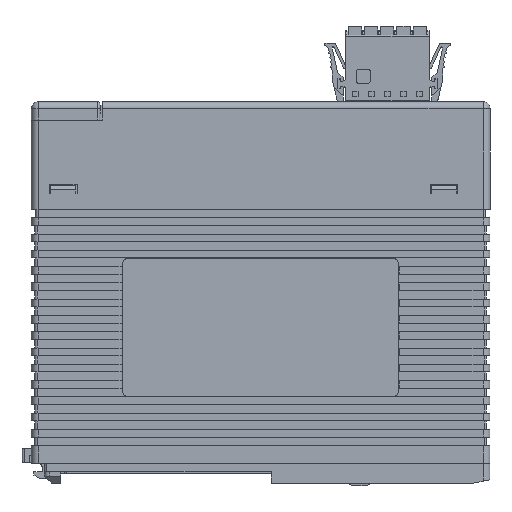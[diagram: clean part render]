
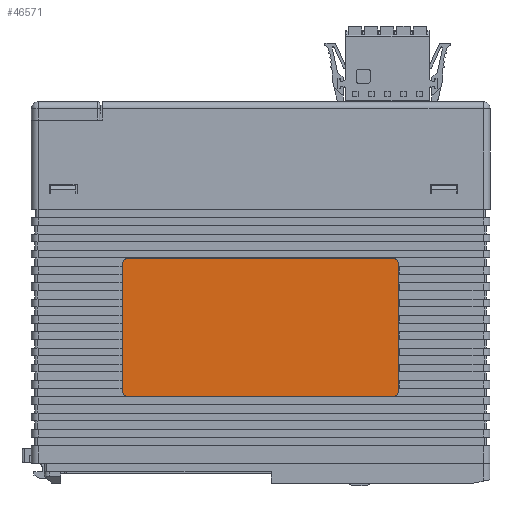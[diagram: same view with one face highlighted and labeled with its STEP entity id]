
A CAD part, left-side view. The second image highlights one B-rep face of the part: STEP entity #46571.
In plain terms, the highlighted planar face has unit normal (-1, 0, 0).
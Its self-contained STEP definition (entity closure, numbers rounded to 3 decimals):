
#1358 = CARTESIAN_POINT ( 'NONE',  ( -14.4, 30.026, -11.68 ) ) ;
#19867 = EDGE_CURVE ( 'NONE', #179852, #36203, #130676, .T. ) ;
#24434 = DIRECTION ( 'NONE',  ( 0., 0., 1. ) ) ;
#27502 = VERTEX_POINT ( 'NONE', #92604 ) ;
#28346 = CIRCLE ( 'NONE', #82457, 1. ) ;
#28403 = VECTOR ( 'NONE', #157841, 1000. ) ;
#28866 = CARTESIAN_POINT ( 'NONE',  ( -14.4, -28.974, -40.68 ) ) ;
#32384 = VECTOR ( 'NONE', #196619, 1000. ) ;
#33597 = AXIS2_PLACEMENT_3D ( 'NONE', #148142, #178882, #117483 ) ;
#36203 = VERTEX_POINT ( 'NONE', #187399 ) ;
#37990 = VERTEX_POINT ( 'NONE', #95046 ) ;
#42849 = LINE ( 'NONE', #158159, #107098 ) ;
#43724 = ORIENTED_EDGE ( 'NONE', *, *, #80150, .F. ) ;
#46530 = DIRECTION ( 'NONE',  ( 1., 0., 0. ) ) ;
#46571 = ADVANCED_FACE ( 'NONE', ( #47382 ), #159549, .T. ) ;
#47382 = FACE_OUTER_BOUND ( 'NONE', #80147, .T. ) ;
#49090 = DIRECTION ( 'NONE',  ( 1., 0., 0. ) ) ;
#51977 = EDGE_CURVE ( 'NONE', #207917, #73822, #28346, .T. ) ;
#59403 = DIRECTION ( 'NONE',  ( -1., 0., 0. ) ) ;
#60878 = DIRECTION ( 'NONE',  ( 0., -1., 0. ) ) ;
#60999 = ORIENTED_EDGE ( 'NONE', *, *, #150312, .F. ) ;
#66150 = CARTESIAN_POINT ( 'NONE',  ( -14.4, 29.026, -10.68 ) ) ;
#67568 = LINE ( 'NONE', #132063, #32384 ) ;
#71598 = ORIENTED_EDGE ( 'NONE', *, *, #19867, .F. ) ;
#72957 = CARTESIAN_POINT ( 'NONE',  ( -14.4, -28.974, -10.68 ) ) ;
#73822 = VERTEX_POINT ( 'NONE', #66150 ) ;
#80147 = EDGE_LOOP ( 'NONE', ( #146849, #43724, #103516, #155287, #203707, #60999, #71598, #139164 ) ) ;
#80150 = EDGE_CURVE ( 'NONE', #202668, #207917, #67568, .T. ) ;
#80933 = AXIS2_PLACEMENT_3D ( 'NONE', #90088, #59403, #24434 ) ;
#82446 = VERTEX_POINT ( 'NONE', #28866 ) ;
#82457 = AXIS2_PLACEMENT_3D ( 'NONE', #208942, #49090, #97747 ) ;
#90088 = CARTESIAN_POINT ( 'NONE',  ( -14.4, 29.026, -11.68 ) ) ;
#90182 = LINE ( 'NONE', #93292, #28403 ) ;
#90246 = AXIS2_PLACEMENT_3D ( 'NONE', #158690, #46530, #140719 ) ;
#92604 = CARTESIAN_POINT ( 'NONE',  ( -14.4, 29.026, -40.68 ) ) ;
#93292 = CARTESIAN_POINT ( 'NONE',  ( -14.4, 29.026, -40.68 ) ) ;
#95046 = CARTESIAN_POINT ( 'NONE',  ( -14.4, -29.974, -39.68 ) ) ;
#97747 = DIRECTION ( 'NONE',  ( 0., 0., 1. ) ) ;
#99080 = DIRECTION ( 'NONE',  ( 0., 0., -1. ) ) ;
#103276 = EDGE_CURVE ( 'NONE', #73822, #179852, #42849, .T. ) ;
#103516 = ORIENTED_EDGE ( 'NONE', *, *, #182594, .F. ) ;
#107098 = VECTOR ( 'NONE', #60878, 1000. ) ;
#111454 = CIRCLE ( 'NONE', #33597, 1. ) ;
#117483 = DIRECTION ( 'NONE',  ( 0., 0., 1. ) ) ;
#122018 = CARTESIAN_POINT ( 'NONE',  ( -14.4, -28.974, -39.68 ) ) ;
#127373 = CIRCLE ( 'NONE', #188284, 1. ) ;
#130676 = CIRCLE ( 'NONE', #90246, 1. ) ;
#132063 = CARTESIAN_POINT ( 'NONE',  ( -14.4, 30.026, -11.68 ) ) ;
#135029 = CARTESIAN_POINT ( 'NONE',  ( -14.4, -29.974, -39.68 ) ) ;
#139164 = ORIENTED_EDGE ( 'NONE', *, *, #103276, .F. ) ;
#140719 = DIRECTION ( 'NONE',  ( 0., 0., 1. ) ) ;
#146150 = VECTOR ( 'NONE', #99080, 1000. ) ;
#146849 = ORIENTED_EDGE ( 'NONE', *, *, #51977, .F. ) ;
#148142 = CARTESIAN_POINT ( 'NONE',  ( -14.4, 29.026, -39.68 ) ) ;
#150312 = EDGE_CURVE ( 'NONE', #36203, #37990, #180577, .T. ) ;
#155287 = ORIENTED_EDGE ( 'NONE', *, *, #160063, .F. ) ;
#155890 = DIRECTION ( 'NONE',  ( 1., 0., 0. ) ) ;
#157841 = DIRECTION ( 'NONE',  ( 0., 1., 0. ) ) ;
#158159 = CARTESIAN_POINT ( 'NONE',  ( -14.4, -28.974, -10.68 ) ) ;
#158690 = CARTESIAN_POINT ( 'NONE',  ( -14.4, -28.974, -11.68 ) ) ;
#159549 = PLANE ( 'NONE',  #80933 ) ;
#160063 = EDGE_CURVE ( 'NONE', #82446, #27502, #90182, .T. ) ;
#170628 = DIRECTION ( 'NONE',  ( 0., 0., 1. ) ) ;
#178882 = DIRECTION ( 'NONE',  ( 1., 0., 0. ) ) ;
#179852 = VERTEX_POINT ( 'NONE', #72957 ) ;
#180577 = LINE ( 'NONE', #135029, #146150 ) ;
#182594 = EDGE_CURVE ( 'NONE', #27502, #202668, #111454, .T. ) ;
#187399 = CARTESIAN_POINT ( 'NONE',  ( -14.4, -29.974, -11.68 ) ) ;
#188284 = AXIS2_PLACEMENT_3D ( 'NONE', #122018, #155890, #170628 ) ;
#195935 = EDGE_CURVE ( 'NONE', #37990, #82446, #127373, .T. ) ;
#196619 = DIRECTION ( 'NONE',  ( 0., 0., 1. ) ) ;
#202668 = VERTEX_POINT ( 'NONE', #204247 ) ;
#203707 = ORIENTED_EDGE ( 'NONE', *, *, #195935, .F. ) ;
#204247 = CARTESIAN_POINT ( 'NONE',  ( -14.4, 30.026, -39.68 ) ) ;
#207917 = VERTEX_POINT ( 'NONE', #1358 ) ;
#208942 = CARTESIAN_POINT ( 'NONE',  ( -14.4, 29.026, -11.68 ) ) ;
